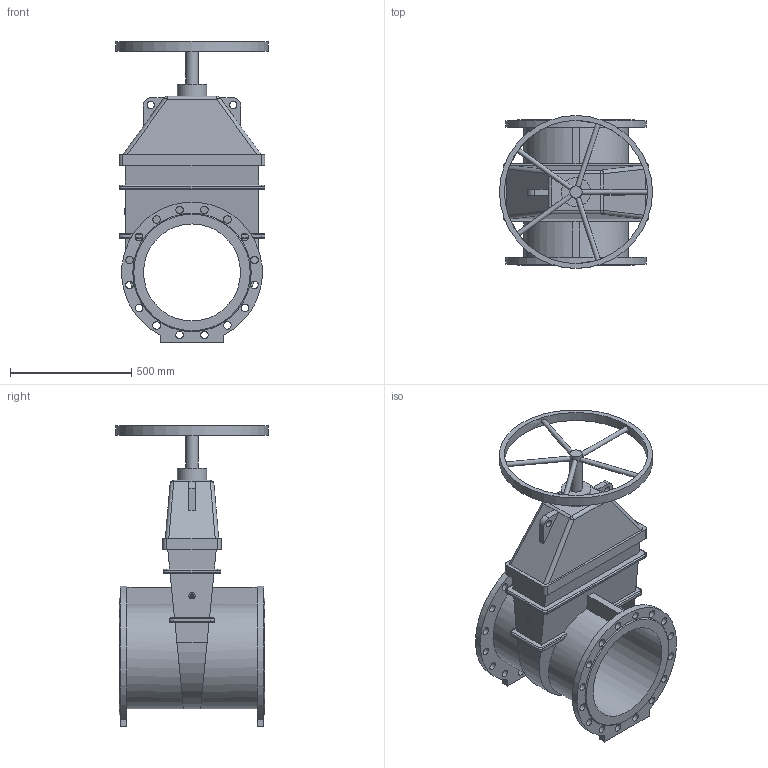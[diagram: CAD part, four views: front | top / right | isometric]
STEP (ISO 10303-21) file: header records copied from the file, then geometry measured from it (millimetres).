
FILE_DESCRIPTION(('STEP AP203'), '1');
FILE_NAME('Çàäâèæêà 47GV DN400 PN16_L600_W630 ñ ìàõîâèêîì', '', ('UNSPECIFIED'), ('UNSPECIFIED'), 'ASCON STEP Converter 1.6', 'ASCON Math Kernel', '');
FILE_SCHEMA(('CONFIG_CONTROL_DESIGN'));
Length unit declared in the file: millimetre
Bounding box: 630 x 630 x 1243 mm (x, y, z)
Volume: 79080743.2 mm3; surface area: 3574781.4 mm2
Topology: 1 solids, 1 shells, 201 faces, 513 edges, 324 vertices
Faces by surface type: cylinder 98, plane 81, bspline 12, torus 8, cone 2
Full cylindrical faces by diameter (mm): 20 x5, 30 x2, 31 x32, 50 x1, 120 x1, 400 x1, 590 x1, 630 x1
Entity records: 10011 total; most frequent: CARTESIAN_POINT 3586, DIRECTION 956, ORIENTED_EDGE 924, EDGE_CURVE 462, AXIS2_PLACEMENT_3D 364, EDGE_LOOP 342, VERTEX_POINT 324, FACE_BOUND 251
